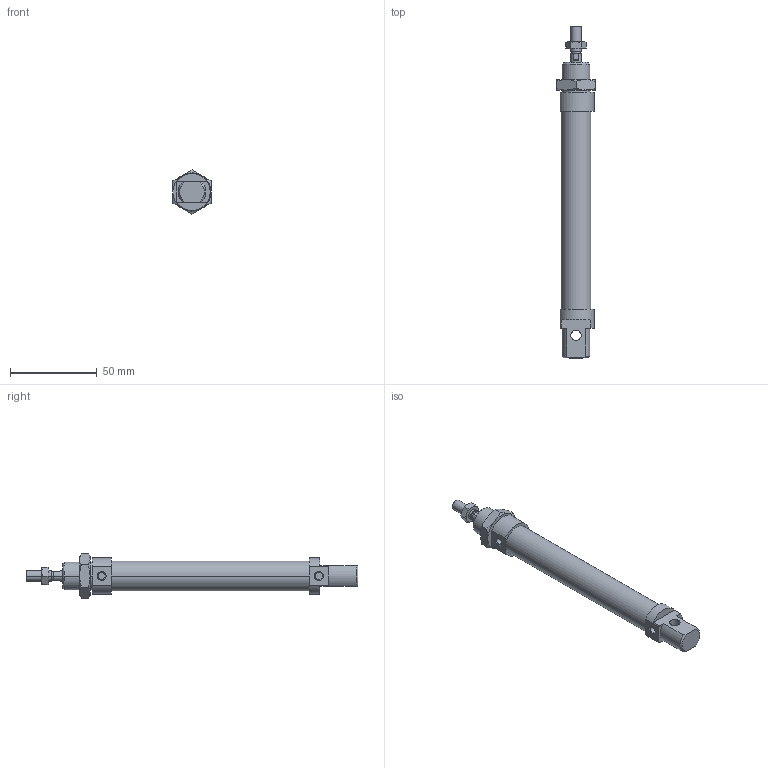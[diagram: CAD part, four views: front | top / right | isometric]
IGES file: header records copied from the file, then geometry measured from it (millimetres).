
Global section: file name: No Iges File Name specified; native system: Autodesk Inventor 2010; preprocessor: AutoDesk Inventor Iges Exporter R2010; author: rivolro1; date: 20090604.093222; units: millimetre
Bounding box: 22 x 191 x 25.4 mm (x, y, z)
Volume: 41449.1 mm3; surface area: 16385.6 mm2
Topology: 4 solids, 4 shells, 107 faces, 236 edges, 144 vertices
Faces by surface type: plane 39, cone 28, bspline 20, cylinder 14, revolution 6
